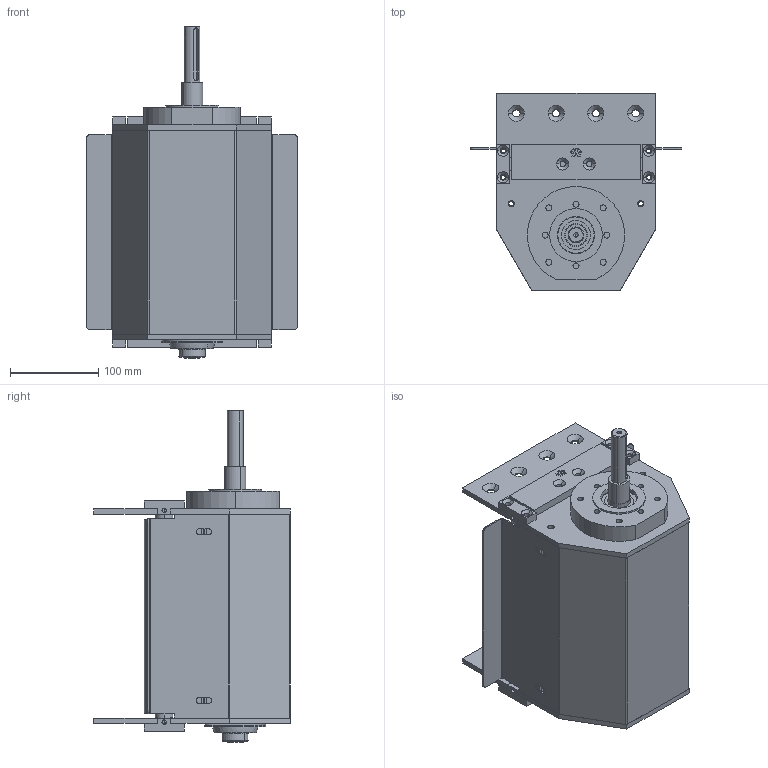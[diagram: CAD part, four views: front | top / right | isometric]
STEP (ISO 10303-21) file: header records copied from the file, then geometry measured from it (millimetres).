
FILE_DESCRIPTION (( 'STEP AP203' ), '1' );
FILE_NAME ('084.050.KCS.44.200.STEP', '2017-05-16T08:58:47', ( 'Localadmin' ), ( 'Microsoft' ), 'SwSTEP 2.0', 'SolidWorks 2016', '' );
FILE_SCHEMA (( 'CONFIG_CONTROL_DESIGN' ));
Length unit declared in the file: millimetre
Products named in the file (16): 084.812.003; 084.817.027; 084.802.003; TRAVERSA PER CARTER^084.050.KCS.44.200_Default<A macchina>; CUSCINETTI A SFERE_6004-2RS; 084.802.010; 084.802.012_Solo centrale; 084.802.021; 084.050.KCS.44.200; 084.814.002-1; 084.810.003; 084.817.028; 084.802.004-1; 084.817.025_Default<A macchina>; 084.802.020; 084.817.026
Assembly tree (27 placements, depth 2):
  084.050.KCS.44.200
    084.817.028  x2
    084.817.025_Default<A macchina>
    084.817.026
    084.817.027  x2
    TRAVERSA PER CARTER^084.050.KCS.44.200_Default<A macchina>  x2
    084.802.010
    084.802.021
    084.814.002-1
    084.810.003  x2
    084.802.004-1  x4
    084.802.020
    084.812.003
    084.802.003  x2
    CUSCINETTI A SFERE_6004-2RS  x4
    084.802.012_Solo centrale  x2
Bounding box: 240 x 223 x 376 mm (x, y, z)
Volume: 2144142.1 mm3; surface area: 1094110.9 mm2
Topology: 29 solids, 29 shells, 1159 faces, 2950 edges, 1908 vertices
Faces by surface type: plane 557, cylinder 399, cone 125, torus 68, sphere 10
Entity records: 23474 total; most frequent: DIRECTION 3914, CARTESIAN_POINT 3748, ORIENTED_EDGE 3520, EDGE_CURVE 1760, AXIS2_PLACEMENT_3D 1439, VERTEX_POINT 1137, LINE 1036, VECTOR 1036
